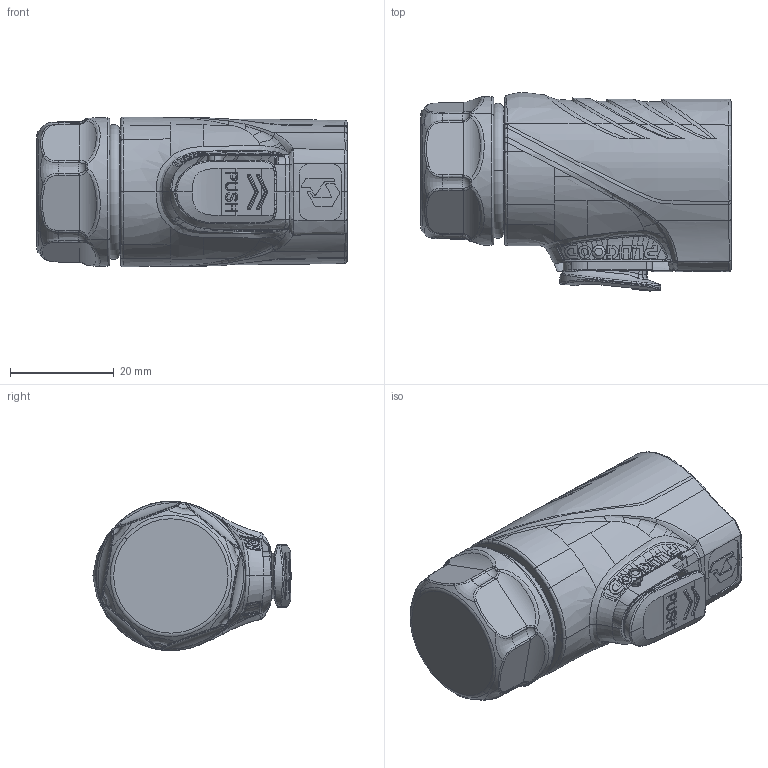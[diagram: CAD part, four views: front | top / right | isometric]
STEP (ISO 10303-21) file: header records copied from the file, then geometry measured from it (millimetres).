
FILE_DESCRIPTION (( 'STEP AP203' ), '1' );
FILE_NAME ('PLG20 2+6眻芛脣芛.STEP', '2025-08-26T06:06:01', ( '' ), ( '' ), 'SwSTEP 2.0', 'SolidWorks 2024', '' );
FILE_SCHEMA (( 'CONFIG_CONTROL_DESIGN' ));
Products named in the file (1): PLG20 2+6直头插头
Bounding box: 59.72 x 38.21 x 28.77 mm (x, y, z)
Volume: 34869.4 mm3; surface area: 13539.3 mm2
Topology: 3 solids, 3 shells, 1228 faces, 3260 edges, 2045 vertices
Faces by surface type: bspline 664, plane 233, cylinder 173, torus 81, cone 63, sphere 14
Entity records: 86108 total; most frequent: CARTESIAN_POINT 61361, ORIENTED_EDGE 6460, EDGE_CURVE 3230, DIRECTION 3139, VERTEX_POINT 2032, B_SPLINE_CURVE_WITH_KNOTS 1739, EDGE_LOOP 1266, ADVANCED_FACE 1227
